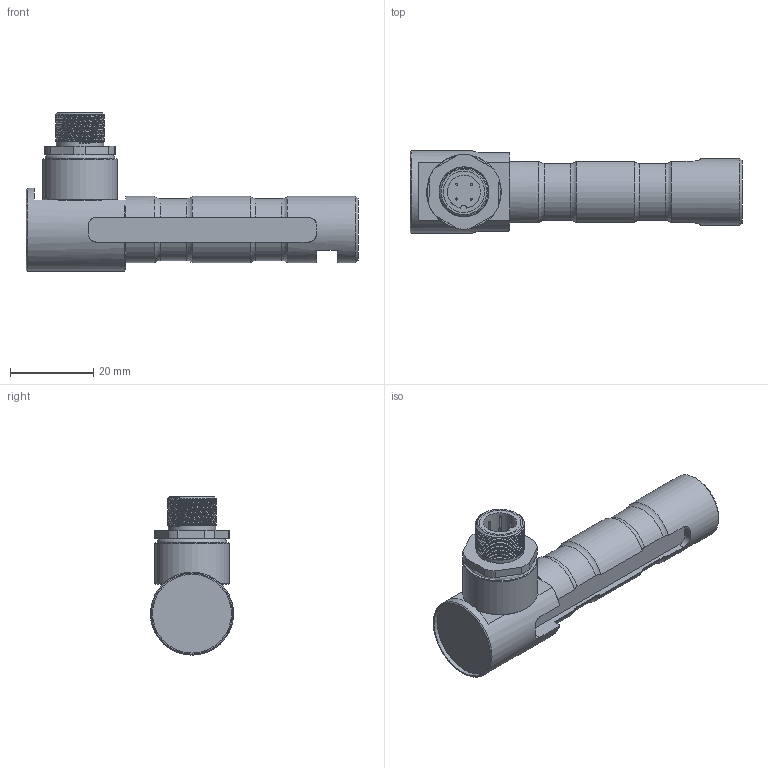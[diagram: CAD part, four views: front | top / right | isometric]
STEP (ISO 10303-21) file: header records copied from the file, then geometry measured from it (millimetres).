
FILE_DESCRIPTION(/* description */ ('Alibre Inc.'),/* implementation_level */ '2;1');
FILE_NAME(/* name */ 'export0',/* time_stamp */ '2014-03-21T15:24:13+01:00',/* author */ (''),/* organization */ (''),/* preprocessor_version */ 'ST-DEVELOPER v14',/* originating_system */ 'Alibre',/* authorisation */ '');
FILE_SCHEMA (('CONFIG_CONTROL_DESIGN'));
Length unit declared in the file: centimetre
Products named in the file (7): ID_1; ID_2; ID_3; ID_4
Bounding box: 80 x 20 x 38.14 mm (x, y, z)
Volume: 18640.5 mm3; surface area: 10591.8 mm2
Topology: 9 solids, 9 shells, 166 faces, 378 edges, 237 vertices
Faces by surface type: plane 67, cylinder 57, bspline 23, cone 10, torus 9
Full cylindrical faces by diameter (mm): 0.5 x8, 8 x3, 10 x3, 10.376 x1, 11.5 x1, 12 x1, 13 x1, 14.5 x1, 16 x1, 18 x1, 19 x1, 20 x1
Entity records: 14850 total; most frequent: CARTESIAN_POINT 11144, ORIENTED_EDGE 674, DIRECTION 457, EDGE_CURVE 332, VERTEX_POINT 225, FACE_BOUND 216, EDGE_LOOP 215, AXIS2_PLACEMENT_3D 203
